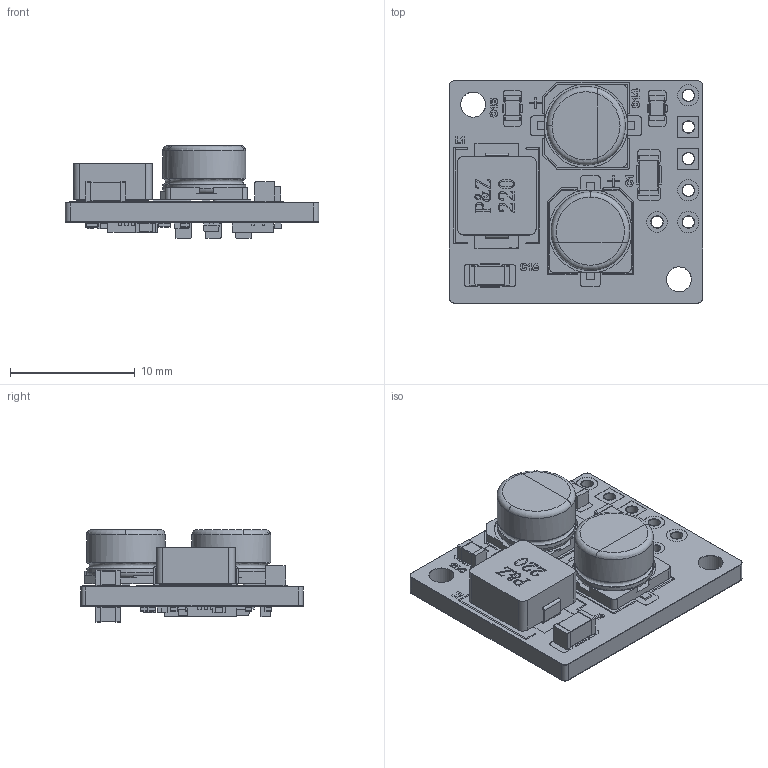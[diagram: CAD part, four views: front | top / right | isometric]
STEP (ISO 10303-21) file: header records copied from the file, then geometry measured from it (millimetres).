
FILE_DESCRIPTION(('KiCad electronic assembly'),'2;1');
FILE_NAME('MD07005_3d.step','2026-08-15T20:32:22',('Pcbnew'),('Kicad'), 'Open CASCADE STEP processor 7.9','KiCad to STEP converter','Unknown' );
FILE_SCHEMA(('AUTOMOTIVE_DESIGN { 1 0 10303 214 1 1 1 1 }'));
Length unit declared in the file: millimetre
Products named in the file (17): MD07005_3d 1; C_1206_3216Metric; CP_Elec_6.3x4.5; C_0805_2012Metric; PSM1365 Series SMD Molding inductor; R_0402_1005Metric; D_SOD-323F; C_0603_1608Metric; C_0402_1005Metric; QFN-20-1EP_4x4mm_P0.5mm_EP2.5x2.5mm; Diodes_PowerDI3333-8; Modig MP4315_5_pad; Modig MP4315_5_silkscreen; Modig MP4315_5_soldermask; Modig MP4315_5_PCB
Assembly tree (36 placements, depth 2):
  MD07005_3d 1
    C_1206_3216Metric  x2
    CP_Elec_6.3x4.5  x2
    C_0805_2012Metric  x5
    PSM1365 Series SMD Molding inductor
    R_0402_1005Metric  x8
    D_SOD-323F  x2
    C_0603_1608Metric
    C_0402_1005Metric  x7
    QFN-20-1EP_4x4mm_P0.5mm_EP2.5x2.5mm
    Diodes_PowerDI3333-8
    Modig MP4315_5_pad
    Modig MP4315_5_silkscreen
    Modig MP4315_5_silkscreen
    Modig MP4315_5_soldermask
    Modig MP4315_5_soldermask
    Modig MP4315_5_PCB
Bounding box: 20.3 x 17.8 x 7.43 mm (x, y, z)
Volume: 995.3 mm3; surface area: 2620.9 mm2
Topology: 134 solids, 287 shells, 2218 faces, 8844 edges, 7092 vertices
Faces by surface type: plane 1348, cylinder 643, bspline 217, torus 8, revolution 2
Full cylindrical faces by diameter (mm): 0.5 x1, 0.95 x18, 1 x12, 1.65 x2, 1.7 x6, 2 x2, 6.3 x4
Entity records: 85741 total; most frequent: CARTESIAN_POINT 20021, DIRECTION 11565, ORIENTED_EDGE 11152, EDGE_CURVE 7409, VERTEX_POINT 6155, LINE 5178, VECTOR 5178, AXIS2_PLACEMENT_3D 3193
